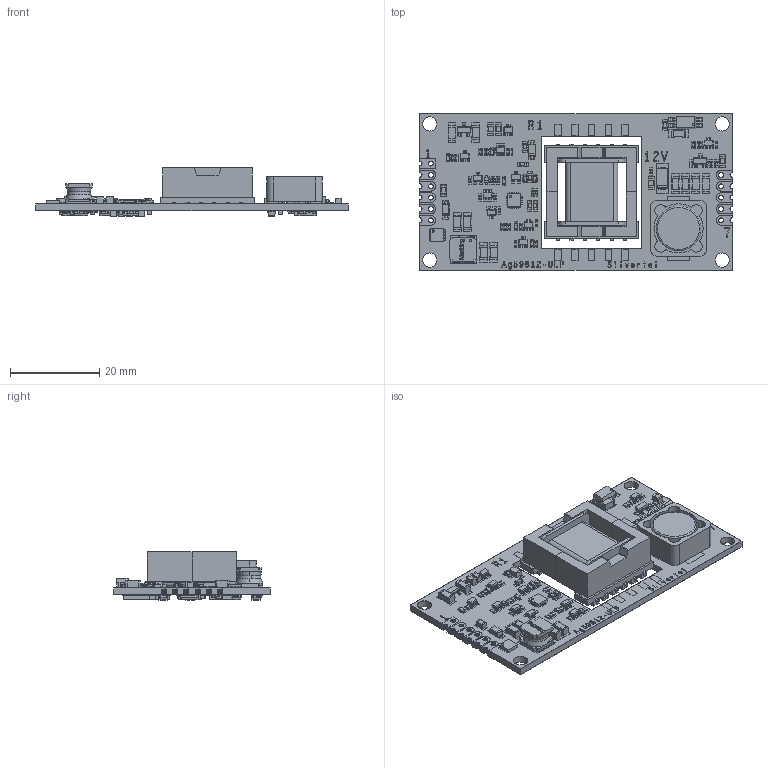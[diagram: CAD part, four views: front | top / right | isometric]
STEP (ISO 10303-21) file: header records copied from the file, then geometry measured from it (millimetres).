
FILE_DESCRIPTION(('FreeCAD Model'),'2;1');
FILE_NAME('Open CASCADE Shape Model','2026-06-02T11:29:43',(''),(''), 'Open CASCADE STEP processor 7.8','FreeCAD','Unknown');
FILE_SCHEMA(('AUTOMOTIVE_DESIGN { 1 0 10303 214 1 1 1 1 }'));
Products named in the file (1): Ag59800_ULP_Detailed
Bounding box: 70 x 35.03 x 10.96 mm (x, y, z)
Volume: 6624.3 mm3; surface area: 16842 mm2
Topology: 152 solids, 178 shells, 9334 faces, 25299 edges, 16417 vertices
Faces by surface type: extrusion 6553, revolution 1847, bspline 934
Entity records: 312358 total; most frequent: CARTESIAN_POINT 61590, ORIENTED_EDGE 50598, DIRECTION 44376, VECTOR 35095, LINE 28542, EDGE_CURVE 25299, VERTEX_POINT 16417, FACE_BOUND 10379
